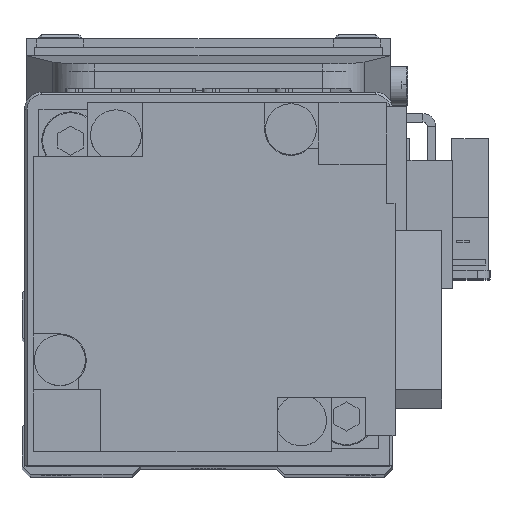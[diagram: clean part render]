
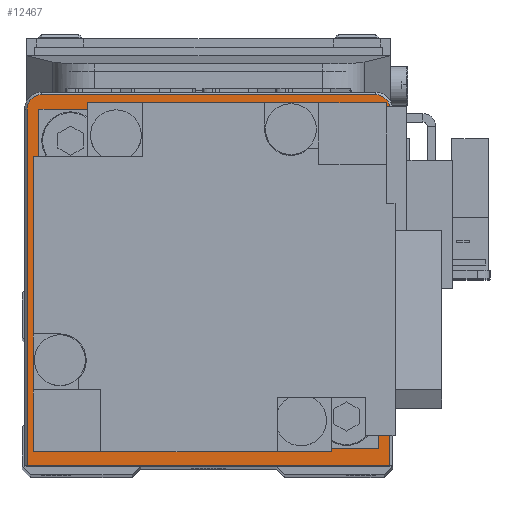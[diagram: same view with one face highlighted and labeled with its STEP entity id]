
A CAD part, top view. The second image highlights one B-rep face of the part: STEP entity #12467.
In plain terms, the highlighted planar face has unit normal (0, 0, 1).
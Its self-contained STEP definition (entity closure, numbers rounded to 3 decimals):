
#53 = ORIENTED_EDGE ( 'NONE', *, *, #14774, .F. ) ;
#864 = VERTEX_POINT ( 'NONE', #885 ) ;
#885 = CARTESIAN_POINT ( 'NONE',  ( 21.4, -22., 26.5 ) ) ;
#1423 = DIRECTION ( 'NONE',  ( 1., 0., 0. ) ) ;
#1503 = EDGE_CURVE ( 'NONE', #864, #29642, #27789, .T. ) ;
#1930 = CARTESIAN_POINT ( 'NONE',  ( 21.4, 20., 26.5 ) ) ;
#1976 = EDGE_CURVE ( 'NONE', #22476, #25297, #33793, .T. ) ;
#3500 = DIRECTION ( 'NONE',  ( 1., 0., 0. ) ) ;
#3794 = EDGE_LOOP ( 'NONE', ( #53, #11374 ) ) ;
#4599 = DIRECTION ( 'NONE',  ( 0., 0., 1. ) ) ;
#4697 = EDGE_LOOP ( 'NONE', ( #7071, #10676, #15360, #11261, #35394, #14398 ) ) ;
#6390 = CARTESIAN_POINT ( 'NONE',  ( 0., 0., 26.5 ) ) ;
#6393 = AXIS2_PLACEMENT_3D ( 'NONE', #6390, #17910, #29469 ) ;
#6714 = DIRECTION ( 'NONE',  ( 0., 0., 1. ) ) ;
#6784 = LINE ( 'NONE', #18320, #29837 ) ;
#6840 = AXIS2_PLACEMENT_3D ( 'NONE', #15727, #27278, #1423 ) ;
#7071 = ORIENTED_EDGE ( 'NONE', *, *, #11567, .T. ) ;
#7875 = CARTESIAN_POINT ( 'NONE',  ( -19.7, 21.7, 26.5 ) ) ;
#9064 = CARTESIAN_POINT ( 'NONE',  ( 0., 0., 26.5 ) ) ;
#10676 = ORIENTED_EDGE ( 'NONE', *, *, #1503, .T. ) ;
#11261 = ORIENTED_EDGE ( 'NONE', *, *, #1976, .T. ) ;
#11374 = ORIENTED_EDGE ( 'NONE', *, *, #26925, .F. ) ;
#11429 = VECTOR ( 'NONE', #13419, 1000. ) ;
#11453 = VECTOR ( 'NONE', #19421, 1000. ) ;
#11567 = EDGE_CURVE ( 'NONE', #30658, #864, #17850, .T. ) ;
#11896 = FACE_OUTER_BOUND ( 'NONE', #4697, .T. ) ;
#12467 = ADVANCED_FACE ( 'NONE', ( #11896, #23430 ), #34964, .T. ) ;
#12592 = AXIS2_PLACEMENT_3D ( 'NONE', #30525, #4599, #16104 ) ;
#12998 = CARTESIAN_POINT ( 'NONE',  ( 19.7, 21.7, 26.5 ) ) ;
#13419 = DIRECTION ( 'NONE',  ( 0., 1., 0. ) ) ;
#14398 = ORIENTED_EDGE ( 'NONE', *, *, #17404, .T. ) ;
#14774 = EDGE_CURVE ( 'NONE', #29331, #25725, #22706, .T. ) ;
#15360 = ORIENTED_EDGE ( 'NONE', *, *, #23189, .T. ) ;
#15727 = CARTESIAN_POINT ( 'NONE',  ( 19.7, 20., 26.5 ) ) ;
#16104 = DIRECTION ( 'NONE',  ( 1., 0., 0. ) ) ;
#17404 = EDGE_CURVE ( 'NONE', #30996, #30658, #6784, .T. ) ;
#17850 = LINE ( 'NONE', #29409, #29184 ) ;
#17910 = DIRECTION ( 'NONE',  ( 0., 0., 1. ) ) ;
#18255 = DIRECTION ( 'NONE',  ( 1., 0., 0. ) ) ;
#18320 = CARTESIAN_POINT ( 'NONE',  ( -21.4, -22., 26.5 ) ) ;
#19208 = AXIS2_PLACEMENT_3D ( 'NONE', #32633, #6714, #18255 ) ;
#19421 = DIRECTION ( 'NONE',  ( -1., 0., 0. ) ) ;
#19726 = EDGE_CURVE ( 'NONE', #25297, #30996, #35528, .T. ) ;
#20198 = CARTESIAN_POINT ( 'NONE',  ( -21.4, -22., 26.5 ) ) ;
#20603 = DIRECTION ( 'NONE',  ( 0., 0., 1. ) ) ;
#22476 = VERTEX_POINT ( 'NONE', #12998 ) ;
#22706 = CIRCLE ( 'NONE', #6393, 10. ) ;
#23137 = CIRCLE ( 'NONE', #6840, 1.7 ) ;
#23189 = EDGE_CURVE ( 'NONE', #29642, #22476, #23137, .T. ) ;
#23430 = FACE_BOUND ( 'NONE', #3794, .T. ) ;
#24496 = CARTESIAN_POINT ( 'NONE',  ( 10., 0., 26.5 ) ) ;
#25297 = VERTEX_POINT ( 'NONE', #27552 ) ;
#25725 = VERTEX_POINT ( 'NONE', #24496 ) ;
#26925 = EDGE_CURVE ( 'NONE', #25725, #29331, #28902, .T. ) ;
#27278 = DIRECTION ( 'NONE',  ( 0., 0., 1. ) ) ;
#27552 = CARTESIAN_POINT ( 'NONE',  ( -19.7, 21.7, 26.5 ) ) ;
#27789 = LINE ( 'NONE', #1930, #11429 ) ;
#28527 = CARTESIAN_POINT ( 'NONE',  ( -10., 0., 26.5 ) ) ;
#28902 = CIRCLE ( 'NONE', #12592, 10. ) ;
#29184 = VECTOR ( 'NONE', #3500, 1000. ) ;
#29331 = VERTEX_POINT ( 'NONE', #28527 ) ;
#29409 = CARTESIAN_POINT ( 'NONE',  ( -21.7, -22., 26.5 ) ) ;
#29469 = DIRECTION ( 'NONE',  ( 1., 0., 0. ) ) ;
#29642 = VERTEX_POINT ( 'NONE', #33588 ) ;
#29837 = VECTOR ( 'NONE', #29877, 1000. ) ;
#29877 = DIRECTION ( 'NONE',  ( 0., -1., 0. ) ) ;
#30525 = CARTESIAN_POINT ( 'NONE',  ( 0., 0., 26.5 ) ) ;
#30658 = VERTEX_POINT ( 'NONE', #20198 ) ;
#30996 = VERTEX_POINT ( 'NONE', #36615 ) ;
#32162 = DIRECTION ( 'NONE',  ( 1., 0., 0. ) ) ;
#32633 = CARTESIAN_POINT ( 'NONE',  ( -19.7, 20., 26.5 ) ) ;
#32847 = AXIS2_PLACEMENT_3D ( 'NONE', #9064, #20603, #32162 ) ;
#33588 = CARTESIAN_POINT ( 'NONE',  ( 21.4, 20., 26.5 ) ) ;
#33793 = LINE ( 'NONE', #7875, #11453 ) ;
#34964 = PLANE ( 'NONE',  #32847 ) ;
#35394 = ORIENTED_EDGE ( 'NONE', *, *, #19726, .T. ) ;
#35528 = CIRCLE ( 'NONE', #19208, 1.7 ) ;
#36615 = CARTESIAN_POINT ( 'NONE',  ( -21.4, 20., 26.5 ) ) ;
